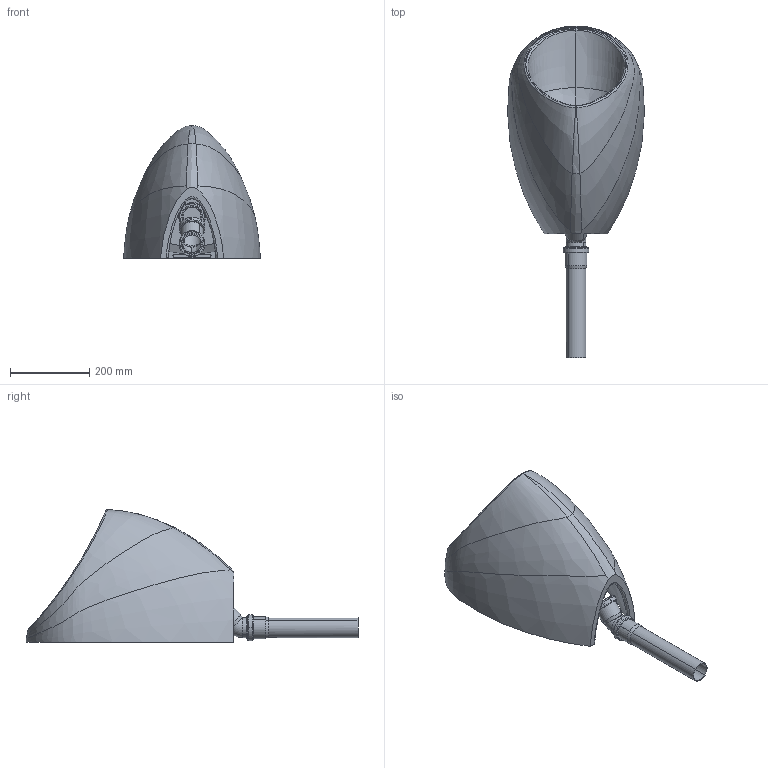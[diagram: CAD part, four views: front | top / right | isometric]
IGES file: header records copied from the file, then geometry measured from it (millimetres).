
Global section: file name: No Iges File Name specified; native system: Autodesk Inventor 2009; preprocessor: AutoDesk Inventor Iges Exporter R2009; author: Finn Lundsgaard; date: 20100212.060029; units: millimetre
Bounding box: 345.17 x 838 x 334.88 mm (x, y, z)
Volume: 10945292.1 mm3; surface area: 977234.2 mm2
Topology: 7 solids, 7 shells, 248 faces, 614 edges, 386 vertices
Faces by surface type: bspline 74, revolution 53, plane 50, torus 33, cylinder 22, cone 16
